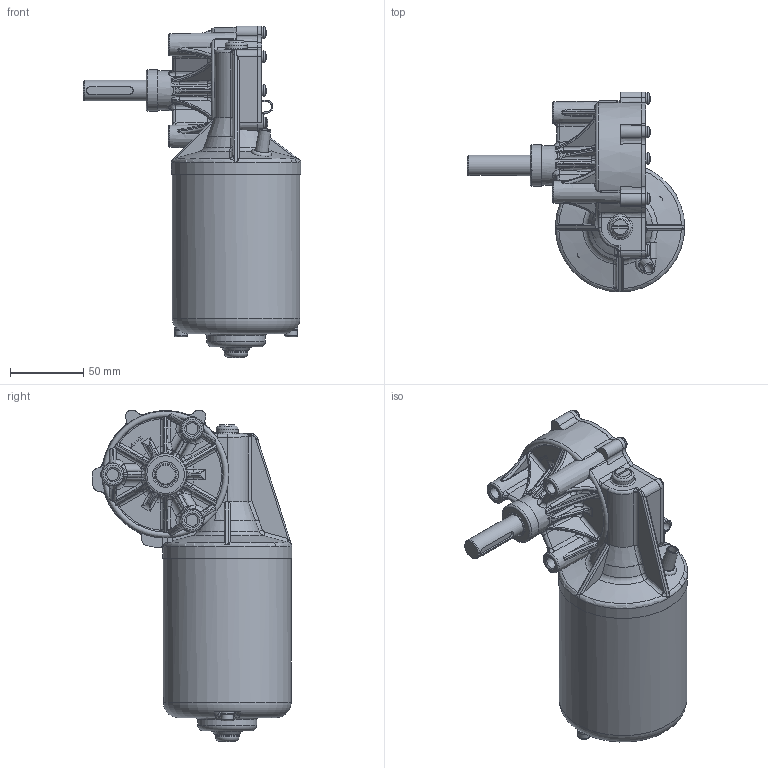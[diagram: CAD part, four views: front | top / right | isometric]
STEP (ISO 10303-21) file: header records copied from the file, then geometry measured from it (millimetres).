
FILE_DESCRIPTION((''),'2;1');
FILE_NAME('C:\Users\tecnico6\Desktop\BOSCH\0386337409.stp','2012-11-23T08:44:07',('tecnico6'),(''),'Autodesk Inventor 2012','Autodesk Inventor 2012','');
FILE_SCHEMA(('AUTOMOTIVE_DESIGN { 1 0 10303 214 1 1 1 1 }'));
Length unit declared in the file: millimetre
Products named in the file (1): Parte1
Bounding box: 148 x 136 x 225.9 mm (x, y, z)
Volume: 278915.5 mm3; surface area: 167334.6 mm2
Topology: 1 solids, 21 shells, 1538 faces, 4152 edges, 2686 vertices
Faces by surface type: plane 537, cylinder 411, bspline 240, cone 176, torus 164, sphere 10
Full cylindrical faces by diameter (mm): 2.8 x2, 3 x3, 3.621 x6, 4 x6, 4.2 x3, 4.5 x10, 5 x4, 5.3 x2, 6 x1, 7.5 x1, 8 x4, 8.5 x2, 9 x1, 9.5 x1, 11 x1, 11.5 x1, 12 x1, 12.3 x1, 14 x2, 15 x2, 16 x1, 18 x1, 22 x1, 28 x2, 33.1 x1, 35 x1, 40 x2, 82 x1, 87 x1, 88 x1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
Entity records: 59241 total; most frequent: CARTESIAN_POINT 22805, ORIENTED_EDGE 7806, DIRECTION 6443, EDGE_CURVE 3903, AXIS2_PLACEMENT_3D 2679, VERTEX_POINT 2611, EDGE_LOOP 1760, FACE_OUTER_BOUND 1535
